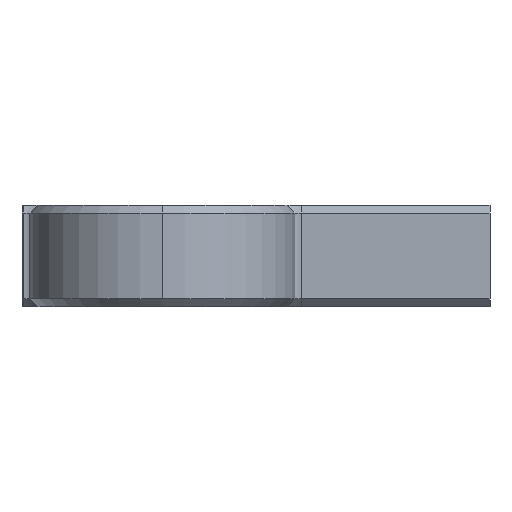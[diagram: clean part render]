
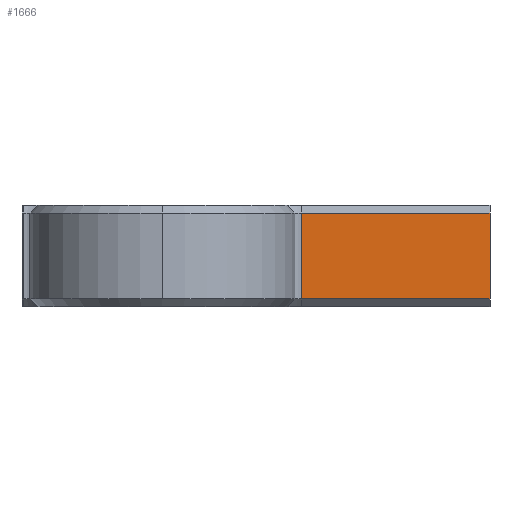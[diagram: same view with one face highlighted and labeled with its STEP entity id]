
A CAD part, left-side view. The second image highlights one B-rep face of the part: STEP entity #1666.
In plain terms, the highlighted planar face has unit normal (-1, 0, 0).
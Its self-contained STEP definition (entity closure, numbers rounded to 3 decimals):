
#25 = CARTESIAN_POINT ( 'NONE',  ( -8., -60., 12. ) ) ;
#90 = LINE ( 'NONE', #888, #329 ) ;
#104 = CARTESIAN_POINT ( 'NONE',  ( -8., -35.861, 13. ) ) ;
#159 = DIRECTION ( 'NONE',  ( 0., 1., 0. ) ) ;
#173 = CARTESIAN_POINT ( 'NONE',  ( -8., -35.861, 1. ) ) ;
#259 = LINE ( 'NONE', #104, #1637 ) ;
#322 = CARTESIAN_POINT ( 'NONE',  ( -8., -60., 13. ) ) ;
#329 = VECTOR ( 'NONE', #1790, 1000. ) ;
#331 = AXIS2_PLACEMENT_3D ( 'NONE', #616, #925, #630 ) ;
#337 = CARTESIAN_POINT ( 'NONE',  ( -8., -60., 1. ) ) ;
#473 = CARTESIAN_POINT ( 'NONE',  ( -8., -35.861, 12. ) ) ;
#520 = VERTEX_POINT ( 'NONE', #337 ) ;
#529 = ORIENTED_EDGE ( 'NONE', *, *, #1138, .T. ) ;
#616 = CARTESIAN_POINT ( 'NONE',  ( -8., -60., 13. ) ) ;
#630 = DIRECTION ( 'NONE',  ( 0., 1., 0. ) ) ;
#633 = ORIENTED_EDGE ( 'NONE', *, *, #1865, .T. ) ;
#669 = EDGE_LOOP ( 'NONE', ( #633, #529, #750, #1440 ) ) ;
#750 = ORIENTED_EDGE ( 'NONE', *, *, #1706, .F. ) ;
#829 = VECTOR ( 'NONE', #1829, 1000. ) ;
#888 = CARTESIAN_POINT ( 'NONE',  ( -8., -60., 1. ) ) ;
#905 = VERTEX_POINT ( 'NONE', #173 ) ;
#925 = DIRECTION ( 'NONE',  ( 1., 0., 0. ) ) ;
#1138 = EDGE_CURVE ( 'NONE', #905, #520, #90, .T. ) ;
#1230 = LINE ( 'NONE', #322, #829 ) ;
#1250 = DIRECTION ( 'NONE',  ( 0., 0., -1. ) ) ;
#1258 = LINE ( 'NONE', #25, #1503 ) ;
#1265 = FACE_OUTER_BOUND ( 'NONE', #669, .T. ) ;
#1382 = EDGE_CURVE ( 'NONE', #1424, #1644, #1258, .T. ) ;
#1424 = VERTEX_POINT ( 'NONE', #1575 ) ;
#1440 = ORIENTED_EDGE ( 'NONE', *, *, #1382, .T. ) ;
#1503 = VECTOR ( 'NONE', #159, 1000. ) ;
#1575 = CARTESIAN_POINT ( 'NONE',  ( -8., -60., 12. ) ) ;
#1637 = VECTOR ( 'NONE', #1250, 1000. ) ;
#1644 = VERTEX_POINT ( 'NONE', #473 ) ;
#1666 = ADVANCED_FACE ( 'NONE', ( #1265 ), #1708, .F. ) ;
#1706 = EDGE_CURVE ( 'NONE', #1424, #520, #1230, .T. ) ;
#1708 = PLANE ( 'NONE',  #331 ) ;
#1790 = DIRECTION ( 'NONE',  ( 0., -1., 0. ) ) ;
#1829 = DIRECTION ( 'NONE',  ( 0., 0., -1. ) ) ;
#1865 = EDGE_CURVE ( 'NONE', #1644, #905, #259, .T. ) ;
